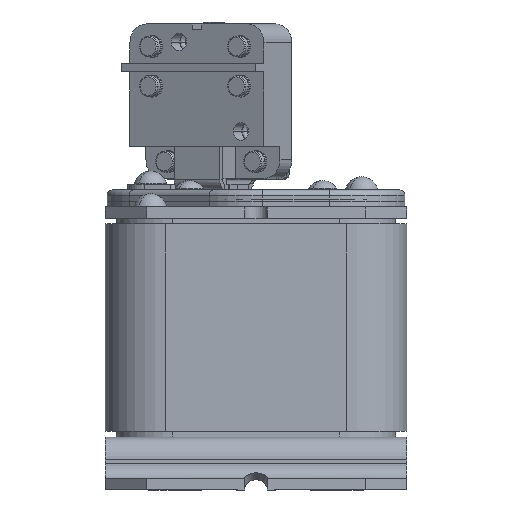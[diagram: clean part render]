
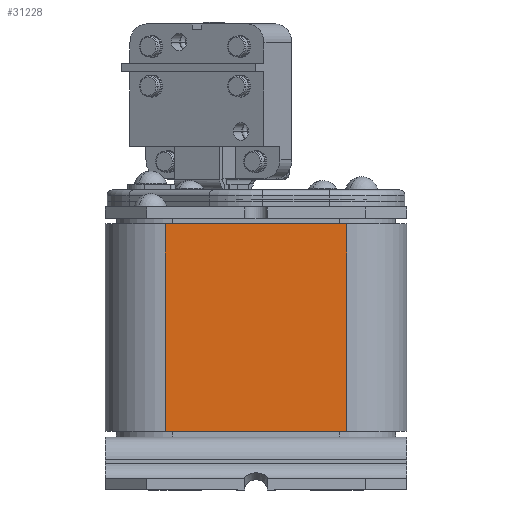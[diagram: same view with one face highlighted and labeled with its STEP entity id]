
A CAD part, front view. The second image highlights one B-rep face of the part: STEP entity #31228.
In plain terms, the highlighted planar face has unit normal (0, -1, 0).
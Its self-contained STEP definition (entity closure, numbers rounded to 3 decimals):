
#97 = VERTEX_POINT ( 'NONE', #33769 ) ;
#731 = LINE ( 'NONE', #17221, #13505 ) ;
#2591 = VERTEX_POINT ( 'NONE', #22671 ) ;
#3496 = CARTESIAN_POINT ( 'NONE',  ( -5.514, -38.958, 27.5 ) ) ;
#3694 = CARTESIAN_POINT ( 'NONE',  ( -69.514, -38.958, 27.5 ) ) ;
#5824 = EDGE_CURVE ( 'NONE', #97, #27759, #731, .T. ) ;
#7107 = EDGE_CURVE ( 'NONE', #2591, #13949, #32468, .T. ) ;
#7920 = DIRECTION ( 'NONE',  ( 0., 0., -1. ) ) ;
#8579 = VECTOR ( 'NONE', #21930, 1000. ) ;
#9321 = ORIENTED_EDGE ( 'NONE', *, *, #18256, .T. ) ;
#10867 = CARTESIAN_POINT ( 'NONE',  ( -5.514, -38.958, -27.5 ) ) ;
#12363 = CARTESIAN_POINT ( 'NONE',  ( -69.514, -38.958, -27.5 ) ) ;
#13043 = DIRECTION ( 'NONE',  ( 0., -1., 0. ) ) ;
#13207 = VECTOR ( 'NONE', #29204, 1000. ) ;
#13505 = VECTOR ( 'NONE', #24360, 1000. ) ;
#13949 = VERTEX_POINT ( 'NONE', #3496 ) ;
#17221 = CARTESIAN_POINT ( 'NONE',  ( -53.514, -38.958, -27.5 ) ) ;
#18256 = EDGE_CURVE ( 'NONE', #27759, #2591, #20858, .T. ) ;
#19153 = EDGE_LOOP ( 'NONE', ( #9321, #32154, #24359, #24636 ) ) ;
#19438 = DIRECTION ( 'NONE',  ( 1., 0., 0. ) ) ;
#20858 = LINE ( 'NONE', #12363, #13207 ) ;
#21308 = EDGE_CURVE ( 'NONE', #97, #13949, #23929, .T. ) ;
#21930 = DIRECTION ( 'NONE',  ( 0., 0., 1. ) ) ;
#22671 = CARTESIAN_POINT ( 'NONE',  ( -5.514, -38.958, -27.5 ) ) ;
#23056 = VECTOR ( 'NONE', #19438, 1000. ) ;
#23920 = CARTESIAN_POINT ( 'NONE',  ( -69.514, -38.958, -27.5 ) ) ;
#23929 = LINE ( 'NONE', #3694, #23056 ) ;
#24359 = ORIENTED_EDGE ( 'NONE', *, *, #21308, .F. ) ;
#24360 = DIRECTION ( 'NONE',  ( 0., 0., -1. ) ) ;
#24636 = ORIENTED_EDGE ( 'NONE', *, *, #5824, .T. ) ;
#26290 = AXIS2_PLACEMENT_3D ( 'NONE', #23920, #13043, #7920 ) ;
#27759 = VERTEX_POINT ( 'NONE', #33011 ) ;
#29204 = DIRECTION ( 'NONE',  ( 1., 0., 0. ) ) ;
#31228 = ADVANCED_FACE ( 'NONE', ( #32288 ), #35076, .T. ) ;
#32154 = ORIENTED_EDGE ( 'NONE', *, *, #7107, .T. ) ;
#32288 = FACE_OUTER_BOUND ( 'NONE', #19153, .T. ) ;
#32468 = LINE ( 'NONE', #10867, #8579 ) ;
#33011 = CARTESIAN_POINT ( 'NONE',  ( -53.514, -38.958, -27.5 ) ) ;
#33769 = CARTESIAN_POINT ( 'NONE',  ( -53.514, -38.958, 27.5 ) ) ;
#35076 = PLANE ( 'NONE',  #26290 ) ;
